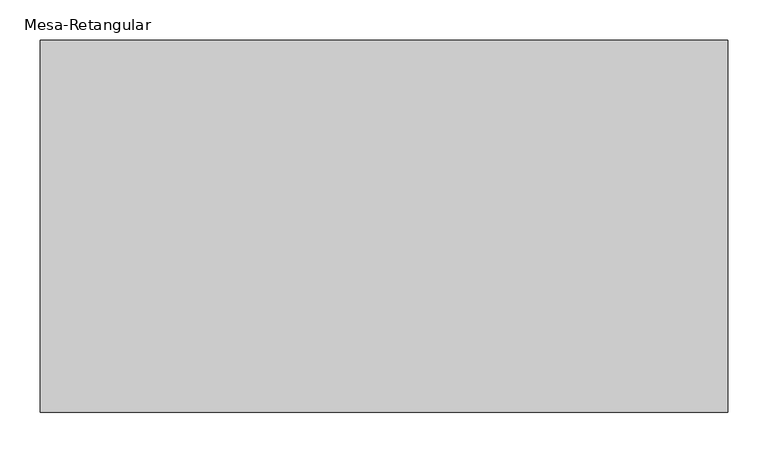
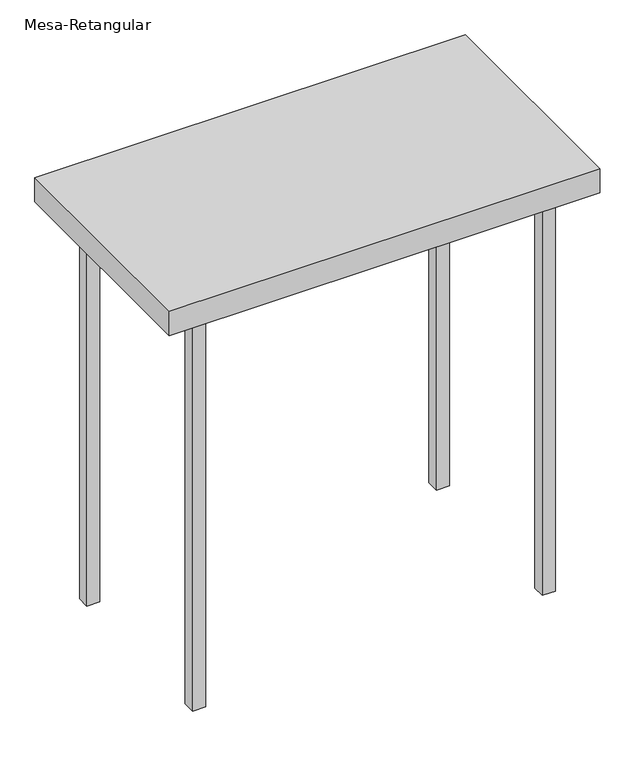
"""IFC4 building model written with IfcOpenShell, lengths in millimetres: furniture geometry, Mesa-Retangular : Mesa aço inox 45x95cm 88AL 4."""

from ifc_helpers import new_model, si_unit, frame, origin, origin_with_axes, place, context, project, spatial, polyline, outline, extrude, source, transform, mapped, element, save


def mesa_retangular_8bad71c7(model_context):
    return source(origin(), model_context, "Body", "SweptSolid", [
        extrude(outline(polyline([(-357.8946305, 168.2145104), (-357.8946305, 193.6145104), (-332.4946305, 193.6145104), (-332.4946305, 168.2145104), (-357.8946305, 168.2145104)])), origin_with_axes(), (0.0, 0.0, 1.0), 829.2),
        extrude(outline(polyline([(-357.8946305, -168.2145104), (-332.4946305, -168.2145104), (-332.4946305, -193.6145104), (-357.8946305, -193.6145104), (-357.8946305, -168.2145104)])), origin_with_axes(), (0.0, 0.0, 1.0), 829.2),
        extrude(outline(polyline([(357.8946305, 168.2145104), (332.4946305, 168.2145104), (332.4946305, 193.6145104), (357.8946305, 193.6145104), (357.8946305, 168.2145104)])), origin_with_axes(), (0.0, 0.0, 1.0), 829.2),
        extrude(outline(polyline([(357.8946305, -168.2145104), (357.8946305, -193.6145104), (332.4946305, -193.6145104), (332.4946305, -168.2145104), (357.8946305, -168.2145104)])), origin_with_axes(), (0.0, 0.0, 1.0), 829.2),
        extrude(outline(polyline([(425.0, 230.0), (425.0, -230.0), (-425.0, -230.0), (-425.0, 230.0), (425.0, 230.0)])), frame((0.0, 0.0, 829.2), z_axis=(0.0, 0.0, 1.0), x_axis=(1.0, 0.0, 0.0)), (0.0, 0.0, 1.0), 50.8),
    ])


if __name__ == "__main__":
    model = new_model("IFC4")
    model_context = context("Model", 3, world=origin())
    ifc_project = project(units=[si_unit("LENGTHUNIT", "METRE", prefix="MILLI")], contexts=[model_context])
    site = spatial("IfcSite", under=ifc_project)
    building = spatial("IfcBuilding", under=site)
    placement = place(None, origin())
    mesa_retangular_shape = mesa_retangular_8bad71c7(model_context)
    element("IfcFurniture", 1, ObjectType="Mesa-Retangular : Mesa aço inox 45x95cm 88AL 4", at=placement, inside=building, context=model_context, shape_type="MappedRepresentation", body=[
        mapped(mesa_retangular_shape, transform((0.0, 0.0, 0.0), x_axis=(1.0, 0.0, 0.0), y_axis=(0.0, 1.0, 0.0), z_axis=(0.0, 0.0, 1.0))),
    ])
    save(model, "model.ifc")
